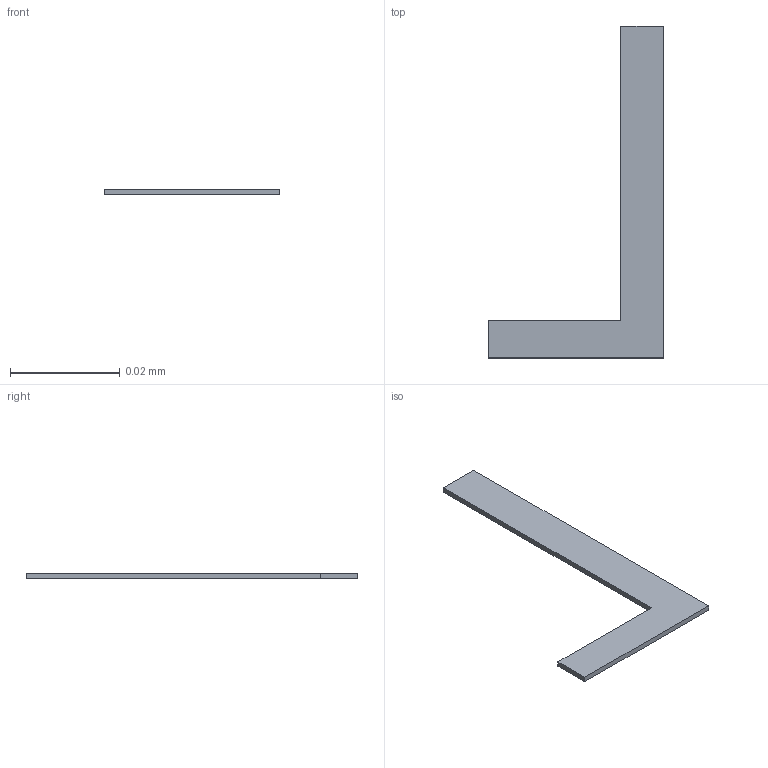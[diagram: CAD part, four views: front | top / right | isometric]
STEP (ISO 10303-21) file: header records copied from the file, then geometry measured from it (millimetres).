
FILE_DESCRIPTION(/* description */ ('STEP AP242 Edition 2','CAx-IF Rec.Pracs.---Representation and Presentation of Product Manufacturing Information (PMI)---4.0---2014-10-13','CAx-IF Rec.Pracs.---3D Tessellated Geometry---0.4---2014-09-14','2;1','CAx-IF Rec.Pracs.---User Defined Attributes---1.5---2016-08-15'),/* implementation_level */ '2;1');
FILE_NAME(/* name */ 'Assembly 1 - SOT-23-6_L2.9-W1.6-P0.95-LS2.8-BL~SOT-23-6_L2.9-W1.6-H1.5-LS2.8-P0.95~nxQB (7)',/* time_stamp */ '2026-04-02T09:55:25Z',/* author */ (''),/* organization */ (''),/* preprocessor_version */ 'ST-DEVELOPER v20',/* originating_system */ 'ONSHAPE BY PTC INC, 1.212',/* authorisation */ ' ');
FILE_SCHEMA (('AP242_MANAGED_MODEL_BASED_3D_ENGINEERING_MIM_LF { 1 0 10303 442 3 1 4 }'));
Length unit declared in the file: metre
Products named in the file (1): SOT-23-6_L2.9-W1.6-P0.95-LS2.8-BL~SOT-23-6_L2.9-W1.6-H1.5-LS2.8-P0.95
~nxQB
Bounding box: 0.03 x 0.06 x 0 mm (x, y, z)
Volume: 0 mm3; surface area: 0 mm2
Topology: 1 solids, 1 shells, 8 faces, 18 edges, 12 vertices
Faces by surface type: plane 8
Entity records: 301 total; most frequent: CARTESIAN_POINT 39, ORIENTED_EDGE 36, DIRECTION 36, EDGE_CURVE 18, LINE 18, VECTOR 18, VERTEX_POINT 12, PRESENTATION_STYLE_ASSIGNMENT 9
